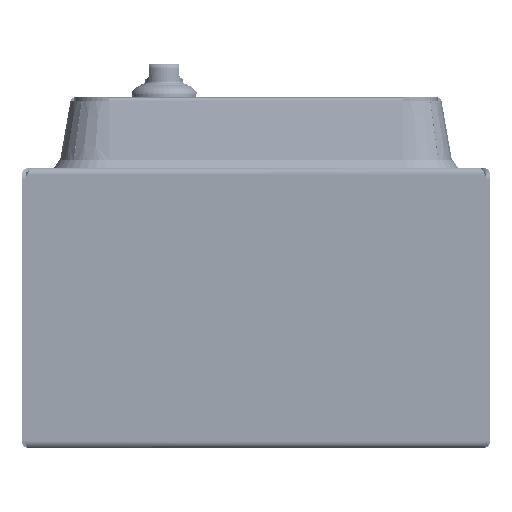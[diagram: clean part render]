
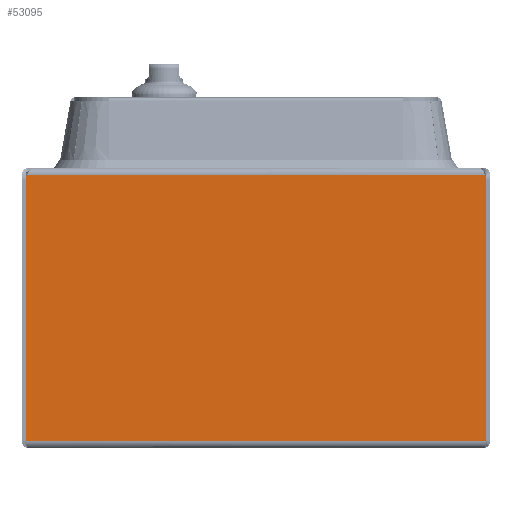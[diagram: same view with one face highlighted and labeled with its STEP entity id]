
A CAD part, front view. The second image highlights one B-rep face of the part: STEP entity #53095.
In plain terms, the highlighted planar face has unit normal (0, -1, 0).
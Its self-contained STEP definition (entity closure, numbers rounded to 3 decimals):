
#5527 = VECTOR ( 'NONE', #63761, 1000. ) ;
#7996 = ORIENTED_EDGE ( 'NONE', *, *, #60811, .T. ) ;
#12236 = VERTEX_POINT ( 'NONE', #39396 ) ;
#17651 = ORIENTED_EDGE ( 'NONE', *, *, #39082, .T. ) ;
#17794 = DIRECTION ( 'NONE',  ( 0., -1., 0. ) ) ;
#19335 = CIRCLE ( 'NONE', #66499, 3.5 ) ;
#23267 = LINE ( 'NONE', #107832, #5527 ) ;
#26064 = VERTEX_POINT ( 'NONE', #86237 ) ;
#29556 = CARTESIAN_POINT ( 'NONE',  ( 3., -150., 98.429 ) ) ;
#33646 = CARTESIAN_POINT ( 'NONE',  ( 114.926, -150., 94.929 ) ) ;
#35185 = DIRECTION ( 'NONE',  ( 0., -1., 0. ) ) ;
#35711 = DIRECTION ( 'NONE',  ( 1., 0., 0. ) ) ;
#36298 = AXIS2_PLACEMENT_3D ( 'NONE', #53321, #95299, #45132 ) ;
#37018 = CARTESIAN_POINT ( 'NONE',  ( 117., -150., 0. ) ) ;
#37642 = CARTESIAN_POINT ( 'NONE',  ( 98.514, -150., 71.629 ) ) ;
#39082 = EDGE_CURVE ( 'NONE', #12236, #51038, #67578, .T. ) ;
#39396 = CARTESIAN_POINT ( 'NONE',  ( 116.942, -150., 97.791 ) ) ;
#42381 = CARTESIAN_POINT ( 'NONE',  ( 117., -150., -98.429 ) ) ;
#43337 = CARTESIAN_POINT ( 'NONE',  ( 114.926, -150., 98.429 ) ) ;
#44399 = LINE ( 'NONE', #37018, #52131 ) ;
#45132 = DIRECTION ( 'NONE',  ( -1., 0., 0. ) ) ;
#46011 = CARTESIAN_POINT ( 'NONE',  ( 117., -150., 97.75 ) ) ;
#46833 = ORIENTED_EDGE ( 'NONE', *, *, #71106, .T. ) ;
#47687 = AXIS2_PLACEMENT_3D ( 'NONE', #37642, #71019, #64985 ) ;
#50634 = DIRECTION ( 'NONE',  ( -1., 0., 0. ) ) ;
#51038 = VERTEX_POINT ( 'NONE', #43337 ) ;
#51728 = FACE_OUTER_BOUND ( 'NONE', #62962, .T. ) ;
#52131 = VECTOR ( 'NONE', #105236, 1000. ) ;
#53095 = ADVANCED_FACE ( 'NONE', ( #51728 ), #85595, .F. ) ;
#53238 = DIRECTION ( 'NONE',  ( 0., -1., 0. ) ) ;
#53301 = EDGE_CURVE ( 'NONE', #70572, #69392, #44399, .T. ) ;
#53321 = CARTESIAN_POINT ( 'NONE',  ( 117., -150., 0. ) ) ;
#55328 = AXIS2_PLACEMENT_3D ( 'NONE', #33646, #17794, #50634 ) ;
#58192 = CARTESIAN_POINT ( 'NONE',  ( 116.942, -150., -97.791 ) ) ;
#58801 = DIRECTION ( 'NONE',  ( 1., 0., 0. ) ) ;
#60811 = EDGE_CURVE ( 'NONE', #75506, #70572, #78688, .T. ) ;
#60813 = EDGE_CURVE ( 'NONE', #26064, #75506, #19335, .T. ) ;
#62316 = ORIENTED_EDGE ( 'NONE', *, *, #60813, .T. ) ;
#62671 = ORIENTED_EDGE ( 'NONE', *, *, #53301, .T. ) ;
#62962 = EDGE_LOOP ( 'NONE', ( #89680, #62316, #7996, #62671, #46833, #17651, #66140, #64746 ) ) ;
#63420 = CIRCLE ( 'NONE', #47687, 32. ) ;
#63761 = DIRECTION ( 'NONE',  ( 0., 0., 1. ) ) ;
#64049 = CARTESIAN_POINT ( 'NONE',  ( 3., -150., -98.429 ) ) ;
#64746 = ORIENTED_EDGE ( 'NONE', *, *, #104211, .F. ) ;
#64985 = DIRECTION ( 'NONE',  ( -1., 0., 0. ) ) ;
#65458 = CARTESIAN_POINT ( 'NONE',  ( 117., -150., 98.429 ) ) ;
#66140 = ORIENTED_EDGE ( 'NONE', *, *, #90135, .F. ) ;
#66499 = AXIS2_PLACEMENT_3D ( 'NONE', #86032, #35185, #86552 ) ;
#67578 = CIRCLE ( 'NONE', #55328, 3.5 ) ;
#69392 = VERTEX_POINT ( 'NONE', #46011 ) ;
#69872 = VERTEX_POINT ( 'NONE', #29556 ) ;
#69941 = AXIS2_PLACEMENT_3D ( 'NONE', #94678, #53238, #35711 ) ;
#70572 = VERTEX_POINT ( 'NONE', #98065 ) ;
#71019 = DIRECTION ( 'NONE',  ( 0., -1., 0. ) ) ;
#71106 = EDGE_CURVE ( 'NONE', #69392, #12236, #63420, .T. ) ;
#75506 = VERTEX_POINT ( 'NONE', #58192 ) ;
#78688 = CIRCLE ( 'NONE', #69941, 32. ) ;
#80492 = VECTOR ( 'NONE', #58801, 1000. ) ;
#85595 = PLANE ( 'NONE',  #36298 ) ;
#86032 = CARTESIAN_POINT ( 'NONE',  ( 114.926, -150., -94.929 ) ) ;
#86237 = CARTESIAN_POINT ( 'NONE',  ( 114.926, -150., -98.429 ) ) ;
#86552 = DIRECTION ( 'NONE',  ( -1., 0., 0. ) ) ;
#87668 = VERTEX_POINT ( 'NONE', #64049 ) ;
#89680 = ORIENTED_EDGE ( 'NONE', *, *, #102447, .T. ) ;
#90135 = EDGE_CURVE ( 'NONE', #69872, #51038, #97050, .T. ) ;
#93564 = VECTOR ( 'NONE', #98698, 1000. ) ;
#94678 = CARTESIAN_POINT ( 'NONE',  ( 98.514, -150., -71.629 ) ) ;
#95299 = DIRECTION ( 'NONE',  ( 0., 1., 0. ) ) ;
#97050 = LINE ( 'NONE', #65458, #93564 ) ;
#98065 = CARTESIAN_POINT ( 'NONE',  ( 117., -150., -97.75 ) ) ;
#98698 = DIRECTION ( 'NONE',  ( 1., 0., 0. ) ) ;
#102447 = EDGE_CURVE ( 'NONE', #87668, #26064, #107311, .T. ) ;
#104211 = EDGE_CURVE ( 'NONE', #87668, #69872, #23267, .T. ) ;
#105236 = DIRECTION ( 'NONE',  ( 0., 0., 1. ) ) ;
#107311 = LINE ( 'NONE', #42381, #80492 ) ;
#107832 = CARTESIAN_POINT ( 'NONE',  ( 3., -150., 0. ) ) ;
